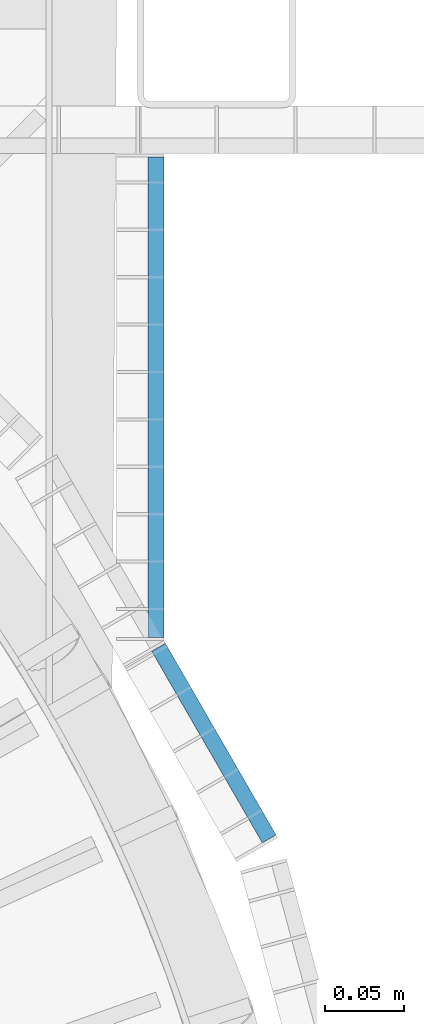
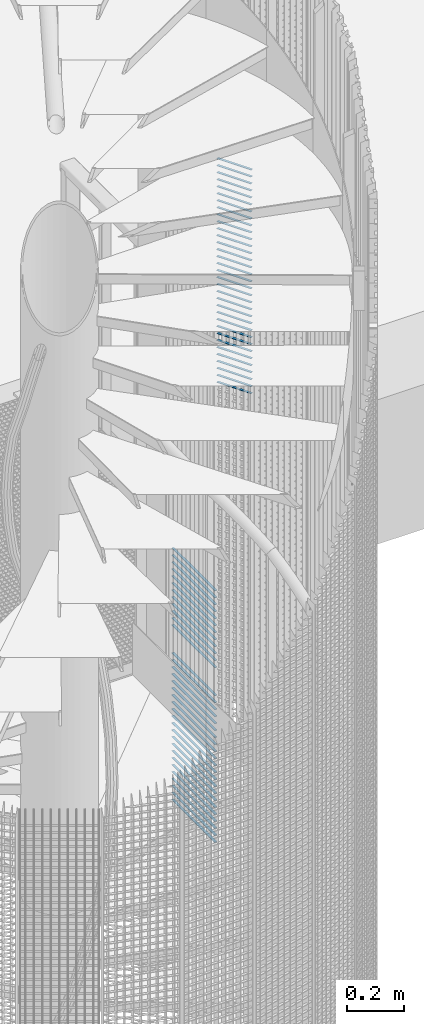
# One storey, part 292 of 1183: 67 beams, 2 elements without a shape of their own.
"""IFC2X3 building model written with IfcOpenShell, lengths in millimetres."""

from ifc_helpers import new_model, si_unit, frame, origin_with_axes, origin_2d_with_axis, place, context, subcontext, project, spatial, rectangle, extrude, material, type_object, element, aggregate, save


model = new_model("IFC2X3")

# Units and contexts
model_context = context("Model", 3, precision=1e-05, world=origin_with_axes())
body_context = subcontext(model_context, "Body", "Model", "MODEL_VIEW")
ifc_project = project(units=[si_unit("LENGTHUNIT", "METRE", prefix="MILLI"), si_unit("AREAUNIT", "SQUARE_METRE"), si_unit("VOLUMEUNIT", "CUBIC_METRE"), si_unit("MASSUNIT", "GRAM", prefix="KILO"), si_unit("TIMEUNIT", "SECOND"), si_unit("PLANEANGLEUNIT", "RADIAN"), si_unit("SOLIDANGLEUNIT", "STERADIAN"), si_unit("THERMODYNAMICTEMPERATUREUNIT", "DEGREE_CELSIUS"), si_unit("LUMINOUSINTENSITYUNIT", "LUMEN")], contexts=[model_context])

# Site, building, storey
site_placement = place(None, origin_with_axes())
site = spatial("IfcSite", under=ifc_project, at=site_placement, Name="Undefined", CompositionType="ELEMENT")
building_placement = place(site_placement, origin_with_axes())
building = spatial("IfcBuilding", under=site, at=building_placement, Name="Undefined", CompositionType="ELEMENT")
storey_placement = place(building_placement, origin_with_axes())
storey = spatial("IfcBuildingStorey", under=building, at=storey_placement, Name="Undefined", CompositionType="ELEMENT", Elevation=0.0)

# Assembly, beams
assembly_1_placement = place(storey_placement, origin_with_axes())
assembly_1 = element("IfcElementAssembly", 1, at=assembly_1_placement, inside=storey, Name="BORDURE", AssemblyPlace="NOTDEFINED", PredefinedType="NOTDEFINED")
ifc_material = material(Name="STEEL/S235JR")
beam_type = type_object("IfcBeamType", Name="PL2*10", PredefinedType="NOTDEFINED")
beam_1_placement = place(assembly_1_placement, frame((961.586915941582, 564.782669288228, 6660.0), z_axis=(1.0, 0.0, 0.0), x_axis=(0.0, 1.0, 0.0)))
beam_1 = element("IfcBeam", 2, at=beam_1_placement, type_object=beam_type, material=ifc_material, Name="ENTRETOISE", context=body_context, shape_type="SweptSolid", body=[
    extrude(rectangle(XDim=2.0, YDim=10.0, at=origin_2d_with_axis()), frame((303.999999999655, 0.0, 0.0), z_axis=(-1.0, 0.0, 0.0), x_axis=(0.0, -1.0, 0.0)), (0.0, 0.0, 1.0), 304.0),
])
beam_2_placement = place(assembly_1_placement, frame((961.586915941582, 564.782669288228, 6630.0), z_axis=(1.0, 0.0, 0.0), x_axis=(0.0, 1.0, 0.0)))
beam_2 = element("IfcBeam", 3, at=beam_2_placement, type_object=beam_type, material=ifc_material, Name="ENTRETOISE", context=body_context, shape_type="SweptSolid", body=[
    extrude(rectangle(XDim=2.0, YDim=10.0, at=origin_2d_with_axis()), frame((303.999999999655, 0.0, 0.0), z_axis=(-1.0, 0.0, 0.0), x_axis=(0.0, -1.0, 0.0)), (0.0, 0.0, 1.0), 304.0),
])
beam_3_placement = place(assembly_1_placement, frame((961.586915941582, 564.782669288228, 6780.0), z_axis=(1.0, 0.0, 0.0), x_axis=(0.0, 1.0, 0.0)))
beam_3 = element("IfcBeam", 4, at=beam_3_placement, type_object=beam_type, material=ifc_material, Name="ENTRETOISE", context=body_context, shape_type="SweptSolid", body=[
    extrude(rectangle(XDim=2.0, YDim=10.0, at=origin_2d_with_axis()), frame((303.999999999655, 0.0, 0.0), z_axis=(-1.0, 0.0, 0.0), x_axis=(0.0, -1.0, 0.0)), (0.0, 0.0, 1.0), 304.0),
])
beam_4_placement = place(assembly_1_placement, frame((961.586915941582, 564.782669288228, 6600.0), z_axis=(1.0, 0.0, 0.0), x_axis=(0.0, 1.0, 0.0)))
beam_4 = element("IfcBeam", 5, at=beam_4_placement, type_object=beam_type, material=ifc_material, Name="ENTRETOISE", context=body_context, shape_type="SweptSolid", body=[
    extrude(rectangle(XDim=2.0, YDim=10.0, at=origin_2d_with_axis()), frame((303.999999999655, 0.0, 0.0), z_axis=(-1.0, 0.0, 0.0), x_axis=(0.0, -1.0, 0.0)), (0.0, 0.0, 1.0), 304.0),
])
beam_5_placement = place(assembly_1_placement, frame((961.586915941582, 564.782669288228, 6810.0), z_axis=(1.0, 0.0, 0.0), x_axis=(0.0, 1.0, 0.0)))
beam_5 = element("IfcBeam", 6, at=beam_5_placement, type_object=beam_type, material=ifc_material, Name="ENTRETOISE", context=body_context, shape_type="SweptSolid", body=[
    extrude(rectangle(XDim=2.0, YDim=10.0, at=origin_2d_with_axis()), frame((303.999999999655, 0.0, 0.0), z_axis=(-1.0, 0.0, 0.0), x_axis=(0.0, -1.0, 0.0)), (0.0, 0.0, 1.0), 304.0),
])
beam_6_placement = place(assembly_1_placement, frame((961.586915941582, 564.782669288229, 6570.0), z_axis=(1.0, 0.0, 0.0), x_axis=(0.0, 1.0, 0.0)))
beam_6 = element("IfcBeam", 7, at=beam_6_placement, type_object=beam_type, material=ifc_material, Name="ENTRETOISE", context=body_context, shape_type="SweptSolid", body=[
    extrude(rectangle(XDim=2.0, YDim=10.0, at=origin_2d_with_axis()), frame((303.999999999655, 0.0, 0.0), z_axis=(-1.0, 0.0, 0.0), x_axis=(0.0, -1.0, 0.0)), (0.0, 0.0, 1.0), 304.0),
])
beam_7_placement = place(assembly_1_placement, frame((961.586915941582, 564.782669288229, 6540.0), z_axis=(1.0, 0.0, 0.0), x_axis=(0.0, 1.0, 0.0)))
beam_7 = element("IfcBeam", 8, at=beam_7_placement, type_object=beam_type, material=ifc_material, Name="ENTRETOISE", context=body_context, shape_type="SweptSolid", body=[
    extrude(rectangle(XDim=2.0, YDim=10.0, at=origin_2d_with_axis()), frame((303.999999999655, 0.0, 0.0), z_axis=(-1.0, 0.0, 0.0), x_axis=(0.0, -1.0, 0.0)), (0.0, 0.0, 1.0), 304.0),
])
beam_8_placement = place(assembly_1_placement, frame((961.586915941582, 564.782669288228, 6840.0), z_axis=(1.0, 0.0, 0.0), x_axis=(0.0, 1.0, 0.0)))
beam_8 = element("IfcBeam", 9, at=beam_8_placement, type_object=beam_type, material=ifc_material, Name="ENTRETOISE", context=body_context, shape_type="SweptSolid", body=[
    extrude(rectangle(XDim=2.0, YDim=10.0, at=origin_2d_with_axis()), frame((303.999999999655, 0.0, 0.0), z_axis=(-1.0, 0.0, 0.0), x_axis=(0.0, -1.0, 0.0)), (0.0, 0.0, 1.0), 304.0),
])
beam_9_placement = place(assembly_1_placement, frame((961.586915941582, 564.782669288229, 6510.0), z_axis=(1.0, 0.0, 0.0), x_axis=(0.0, 1.0, 0.0)))
beam_9 = element("IfcBeam", 10, at=beam_9_placement, type_object=beam_type, material=ifc_material, Name="ENTRETOISE", context=body_context, shape_type="SweptSolid", body=[
    extrude(rectangle(XDim=2.0, YDim=10.0, at=origin_2d_with_axis()), frame((303.999999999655, 0.0, 0.0), z_axis=(-1.0, 0.0, 0.0), x_axis=(0.0, -1.0, 0.0)), (0.0, 0.0, 1.0), 304.0),
])
beam_10_placement = place(assembly_1_placement, frame((961.586915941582, 564.782669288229, 6480.0), z_axis=(1.0, 0.0, 0.0), x_axis=(0.0, 1.0, 0.0)))
beam_10 = element("IfcBeam", 11, at=beam_10_placement, type_object=beam_type, material=ifc_material, Name="ENTRETOISE", context=body_context, shape_type="SweptSolid", body=[
    extrude(rectangle(XDim=2.0, YDim=10.0, at=origin_2d_with_axis()), frame((303.999999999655, 0.0, 0.0), z_axis=(-1.0, 0.0, 0.0), x_axis=(0.0, -1.0, 0.0)), (0.0, 0.0, 1.0), 304.0),
])
beam_11_placement = place(assembly_1_placement, frame((961.586915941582, 564.782669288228, 6870.0), z_axis=(1.0, 0.0, 0.0), x_axis=(0.0, 1.0, 0.0)))
beam_11 = element("IfcBeam", 12, at=beam_11_placement, type_object=beam_type, material=ifc_material, Name="ENTRETOISE", context=body_context, shape_type="SweptSolid", body=[
    extrude(rectangle(XDim=2.0, YDim=10.0, at=origin_2d_with_axis()), frame((303.999999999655, 0.0, 0.0), z_axis=(-1.0, 0.0, 0.0), x_axis=(0.0, -1.0, 0.0)), (0.0, 0.0, 1.0), 304.0),
])
beam_12_placement = place(assembly_1_placement, frame((961.586915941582, 564.782669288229, 6450.0), z_axis=(1.0, 0.0, 0.0), x_axis=(0.0, 1.0, 0.0)))
beam_12 = element("IfcBeam", 13, at=beam_12_placement, type_object=beam_type, material=ifc_material, Name="ENTRETOISE", context=body_context, shape_type="SweptSolid", body=[
    extrude(rectangle(XDim=2.0, YDim=10.0, at=origin_2d_with_axis()), frame((303.999999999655, 0.0, 0.0), z_axis=(-1.0, 0.0, 0.0), x_axis=(0.0, -1.0, 0.0)), (0.0, 0.0, 1.0), 304.0),
])
beam_13_placement = place(assembly_1_placement, frame((961.586915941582, 564.782669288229, 6420.0), z_axis=(1.0, 0.0, 0.0), x_axis=(0.0, 1.0, 0.0)))
beam_13 = element("IfcBeam", 14, at=beam_13_placement, type_object=beam_type, material=ifc_material, Name="ENTRETOISE", context=body_context, shape_type="SweptSolid", body=[
    extrude(rectangle(XDim=2.0, YDim=10.0, at=origin_2d_with_axis()), frame((303.999999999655, 0.0, 0.0), z_axis=(-1.0, 0.0, 0.0), x_axis=(0.0, -1.0, 0.0)), (0.0, 0.0, 1.0), 304.0),
])
beam_14_placement = place(assembly_1_placement, frame((961.586915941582, 564.782669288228, 6900.0), z_axis=(1.0, 0.0, 0.0), x_axis=(0.0, 1.0, 0.0)))
beam_14 = element("IfcBeam", 15, at=beam_14_placement, type_object=beam_type, material=ifc_material, Name="ENTRETOISE", context=body_context, shape_type="SweptSolid", body=[
    extrude(rectangle(XDim=2.0, YDim=10.0, at=origin_2d_with_axis()), frame((303.999999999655, 0.0, 0.0), z_axis=(-1.0, 0.0, 0.0), x_axis=(0.0, -1.0, 0.0)), (0.0, 0.0, 1.0), 304.0),
])
beam_15_placement = place(assembly_1_placement, frame((961.586915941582, 564.782669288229, 6390.0), z_axis=(1.0, 0.0, 0.0), x_axis=(0.0, 1.0, 0.0)))
beam_15 = element("IfcBeam", 16, at=beam_15_placement, type_object=beam_type, material=ifc_material, Name="ENTRETOISE", context=body_context, shape_type="SweptSolid", body=[
    extrude(rectangle(XDim=2.0, YDim=10.0, at=origin_2d_with_axis()), frame((303.999999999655, 0.0, 0.0), z_axis=(-1.0, 0.0, 0.0), x_axis=(0.0, -1.0, 0.0)), (0.0, 0.0, 1.0), 304.0),
])
beam_16_placement = place(assembly_1_placement, frame((961.586915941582, 564.782669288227, 6930.0), z_axis=(1.0, 0.0, 0.0), x_axis=(0.0, 1.0, 0.0)))
beam_16 = element("IfcBeam", 17, at=beam_16_placement, type_object=beam_type, material=ifc_material, Name="ENTRETOISE", context=body_context, shape_type="SweptSolid", body=[
    extrude(rectangle(XDim=2.0, YDim=10.0, at=origin_2d_with_axis()), frame((303.999999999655, 0.0, 0.0), z_axis=(-1.0, 0.0, 0.0), x_axis=(0.0, -1.0, 0.0)), (0.0, 0.0, 1.0), 304.0),
])
beam_17_placement = place(assembly_1_placement, frame((961.586915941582, 564.782669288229, 6360.0), z_axis=(1.0, 0.0, 0.0), x_axis=(0.0, 1.0, 0.0)))
beam_17 = element("IfcBeam", 18, at=beam_17_placement, type_object=beam_type, material=ifc_material, Name="ENTRETOISE", context=body_context, shape_type="SweptSolid", body=[
    extrude(rectangle(XDim=2.0, YDim=10.0, at=origin_2d_with_axis()), frame((303.999999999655, 0.0, 0.0), z_axis=(-1.0, 0.0, 0.0), x_axis=(0.0, -1.0, 0.0)), (0.0, 0.0, 1.0), 304.0),
])
beam_18_placement = place(assembly_1_placement, frame((961.586915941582, 564.782669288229, 6330.0), z_axis=(1.0, 0.0, 0.0), x_axis=(0.0, 1.0, 0.0)))
beam_18 = element("IfcBeam", 19, at=beam_18_placement, type_object=beam_type, material=ifc_material, Name="ENTRETOISE", context=body_context, shape_type="SweptSolid", body=[
    extrude(rectangle(XDim=2.0, YDim=10.0, at=origin_2d_with_axis()), frame((303.999999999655, 0.0, 0.0), z_axis=(-1.0, 0.0, 0.0), x_axis=(0.0, -1.0, 0.0)), (0.0, 0.0, 1.0), 304.0),
])
beam_19_placement = place(assembly_1_placement, frame((961.586915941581, 564.782669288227, 6960.0), z_axis=(1.0, 0.0, 0.0), x_axis=(0.0, 1.0, 0.0)))
beam_19 = element("IfcBeam", 20, at=beam_19_placement, type_object=beam_type, material=ifc_material, Name="ENTRETOISE", context=body_context, shape_type="SweptSolid", body=[
    extrude(rectangle(XDim=2.0, YDim=10.0, at=origin_2d_with_axis()), frame((303.999999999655, 0.0, 0.0), z_axis=(-1.0, 0.0, 0.0), x_axis=(0.0, -1.0, 0.0)), (0.0, 0.0, 1.0), 304.0),
])
beam_20_placement = place(assembly_1_placement, frame((961.586915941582, 564.782669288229, 6300.0), z_axis=(1.0, 0.0, 0.0), x_axis=(0.0, 1.0, 0.0)))
beam_20 = element("IfcBeam", 21, at=beam_20_placement, type_object=beam_type, material=ifc_material, Name="ENTRETOISE", context=body_context, shape_type="SweptSolid", body=[
    extrude(rectangle(XDim=2.0, YDim=10.0, at=origin_2d_with_axis()), frame((303.999999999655, 0.0, 0.0), z_axis=(-1.0, 0.0, 0.0), x_axis=(0.0, -1.0, 0.0)), (0.0, 0.0, 1.0), 304.0),
])
beam_21_placement = place(assembly_1_placement, frame((961.586915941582, 564.78266928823, 6270.0), z_axis=(1.0, 0.0, 0.0), x_axis=(0.0, 1.0, 0.0)))
beam_21 = element("IfcBeam", 22, at=beam_21_placement, type_object=beam_type, material=ifc_material, Name="ENTRETOISE", context=body_context, shape_type="SweptSolid", body=[
    extrude(rectangle(XDim=2.0, YDim=10.0, at=origin_2d_with_axis()), frame((303.999999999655, 0.0, 0.0), z_axis=(-1.0, 0.0, 0.0), x_axis=(0.0, -1.0, 0.0)), (0.0, 0.0, 1.0), 304.0),
])
beam_22_placement = place(assembly_1_placement, frame((961.586915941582, 564.782669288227, 6990.0), z_axis=(1.0, 0.0, 0.0), x_axis=(0.0, 1.0, 0.0)))
beam_22 = element("IfcBeam", 23, at=beam_22_placement, type_object=beam_type, material=ifc_material, Name="ENTRETOISE", context=body_context, shape_type="SweptSolid", body=[
    extrude(rectangle(XDim=2.0, YDim=10.0, at=origin_2d_with_axis()), frame((303.999999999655, 0.0, 0.0), z_axis=(-1.0, 0.0, 0.0), x_axis=(0.0, -1.0, 0.0)), (0.0, 0.0, 1.0), 304.0),
])
beam_23_placement = place(assembly_1_placement, frame((961.586915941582, 564.78266928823, 6240.0), z_axis=(1.0, 0.0, 0.0), x_axis=(0.0, 1.0, 0.0)))
beam_23 = element("IfcBeam", 24, at=beam_23_placement, type_object=beam_type, material=ifc_material, Name="ENTRETOISE", context=body_context, shape_type="SweptSolid", body=[
    extrude(rectangle(XDim=2.0, YDim=10.0, at=origin_2d_with_axis()), frame((303.999999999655, 0.0, 0.0), z_axis=(-1.0, 0.0, 0.0), x_axis=(0.0, -1.0, 0.0)), (0.0, 0.0, 1.0), 304.0),
])
beam_24_placement = place(assembly_1_placement, frame((961.586915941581, 564.782669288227, 7020.0), z_axis=(1.0, 0.0, 0.0), x_axis=(0.0, 1.0, 0.0)))
beam_24 = element("IfcBeam", 25, at=beam_24_placement, type_object=beam_type, material=ifc_material, Name="ENTRETOISE", context=body_context, shape_type="SweptSolid", body=[
    extrude(rectangle(XDim=2.0, YDim=10.0, at=origin_2d_with_axis()), frame((303.999999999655, 0.0, 0.0), z_axis=(-1.0, 0.0, 0.0), x_axis=(0.0, -1.0, 0.0)), (0.0, 0.0, 1.0), 304.0),
])
beam_25_placement = place(assembly_1_placement, frame((961.586915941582, 564.78266928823, 6210.0), z_axis=(1.0, 0.0, 0.0), x_axis=(0.0, 1.0, 0.0)))
beam_25 = element("IfcBeam", 26, at=beam_25_placement, type_object=beam_type, material=ifc_material, Name="ENTRETOISE", context=body_context, shape_type="SweptSolid", body=[
    extrude(rectangle(XDim=2.0, YDim=10.0, at=origin_2d_with_axis()), frame((303.999999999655, 0.0, 0.0), z_axis=(-1.0, 0.0, 0.0), x_axis=(0.0, -1.0, 0.0)), (0.0, 0.0, 1.0), 304.0),
])
beam_26_placement = place(assembly_1_placement, frame((961.586915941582, 564.78266928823, 6180.0), z_axis=(1.0, 0.0, 0.0), x_axis=(0.0, 1.0, 0.0)))
beam_26 = element("IfcBeam", 27, at=beam_26_placement, type_object=beam_type, material=ifc_material, Name="ENTRETOISE", context=body_context, shape_type="SweptSolid", body=[
    extrude(rectangle(XDim=2.0, YDim=10.0, at=origin_2d_with_axis()), frame((303.999999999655, 0.0, 0.0), z_axis=(-1.0, 0.0, 0.0), x_axis=(0.0, -1.0, 0.0)), (0.0, 0.0, 1.0), 304.0),
])
beam_27_placement = place(assembly_1_placement, frame((961.586915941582, 564.782669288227, 7050.0), z_axis=(1.0, 0.0, 0.0), x_axis=(0.0, 1.0, 0.0)))
beam_27 = element("IfcBeam", 28, at=beam_27_placement, type_object=beam_type, material=ifc_material, Name="ENTRETOISE", context=body_context, shape_type="SweptSolid", body=[
    extrude(rectangle(XDim=2.0, YDim=10.0, at=origin_2d_with_axis()), frame((303.999999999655, 0.0, 0.0), z_axis=(-1.0, 0.0, 0.0), x_axis=(0.0, -1.0, 0.0)), (0.0, 0.0, 1.0), 304.0),
])
beam_28_placement = place(assembly_1_placement, frame((961.586915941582, 564.78266928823, 6150.0), z_axis=(1.0, 0.0, 0.0), x_axis=(0.0, 1.0, 0.0)))
beam_28 = element("IfcBeam", 29, at=beam_28_placement, type_object=beam_type, material=ifc_material, Name="ENTRETOISE", context=body_context, shape_type="SweptSolid", body=[
    extrude(rectangle(XDim=2.0, YDim=10.0, at=origin_2d_with_axis()), frame((303.999999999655, 0.0, 0.0), z_axis=(-1.0, 0.0, 0.0), x_axis=(0.0, -1.0, 0.0)), (0.0, 0.0, 1.0), 304.0),
])
beam_29_placement = place(assembly_1_placement, frame((961.586915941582, 564.78266928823, 6120.0), z_axis=(1.0, 0.0, 0.0), x_axis=(0.0, 1.0, 0.0)))
beam_29 = element("IfcBeam", 30, at=beam_29_placement, type_object=beam_type, material=ifc_material, Name="ENTRETOISE", context=body_context, shape_type="SweptSolid", body=[
    extrude(rectangle(XDim=2.0, YDim=10.0, at=origin_2d_with_axis()), frame((303.999999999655, 0.0, 0.0), z_axis=(-1.0, 0.0, 0.0), x_axis=(0.0, -1.0, 0.0)), (0.0, 0.0, 1.0), 304.0),
])
beam_30_placement = place(assembly_1_placement, frame((961.586915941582, 564.782669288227, 7080.0), z_axis=(1.0, 0.0, 0.0), x_axis=(0.0, 1.0, 0.0)))
beam_30 = element("IfcBeam", 31, at=beam_30_placement, type_object=beam_type, material=ifc_material, Name="ENTRETOISE", context=body_context, shape_type="SweptSolid", body=[
    extrude(rectangle(XDim=2.0, YDim=10.0, at=origin_2d_with_axis()), frame((303.999999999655, 0.0, 0.0), z_axis=(-1.0, 0.0, 0.0), x_axis=(0.0, -1.0, 0.0)), (0.0, 0.0, 1.0), 304.0),
])
beam_31_placement = place(assembly_1_placement, frame((961.586915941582, 564.78266928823, 6090.0), z_axis=(1.0, 0.0, 0.0), x_axis=(0.0, 1.0, 0.0)))
beam_31 = element("IfcBeam", 32, at=beam_31_placement, type_object=beam_type, material=ifc_material, Name="ENTRETOISE", context=body_context, shape_type="SweptSolid", body=[
    extrude(rectangle(XDim=2.0, YDim=10.0, at=origin_2d_with_axis()), frame((303.999999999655, 0.0, 0.0), z_axis=(-1.0, 0.0, 0.0), x_axis=(0.0, -1.0, 0.0)), (0.0, 0.0, 1.0), 304.0),
])
beam_32_placement = place(assembly_1_placement, frame((961.586915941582, 564.78266928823, 6060.0), z_axis=(1.0, 0.0, 0.0), x_axis=(0.0, 1.0, 0.0)))
beam_32 = element("IfcBeam", 33, at=beam_32_placement, type_object=beam_type, material=ifc_material, Name="ENTRETOISE", context=body_context, shape_type="SweptSolid", body=[
    extrude(rectangle(XDim=2.0, YDim=10.0, at=origin_2d_with_axis()), frame((303.999999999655, 0.0, 0.0), z_axis=(-1.0, 0.0, 0.0), x_axis=(0.0, -1.0, 0.0)), (0.0, 0.0, 1.0), 304.0),
])
beam_33_placement = place(assembly_1_placement, frame((961.586915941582, 564.782669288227, 7110.0), z_axis=(1.0, 0.0, 0.0), x_axis=(0.0, 1.0, 0.0)))
beam_33 = element("IfcBeam", 34, at=beam_33_placement, type_object=beam_type, material=ifc_material, Name="ENTRETOISE", context=body_context, shape_type="SweptSolid", body=[
    extrude(rectangle(XDim=2.0, YDim=10.0, at=origin_2d_with_axis()), frame((303.999999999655, 0.0, 0.0), z_axis=(-1.0, 0.0, 0.0), x_axis=(0.0, -1.0, 0.0)), (0.0, 0.0, 1.0), 304.0),
])
beam_34_placement = place(assembly_1_placement, frame((961.586915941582, 564.782669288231, 6030.0), z_axis=(1.0, 0.0, 0.0), x_axis=(0.0, 1.0, 0.0)))
beam_34 = element("IfcBeam", 35, at=beam_34_placement, type_object=beam_type, material=ifc_material, Name="ENTRETOISE", context=body_context, shape_type="SweptSolid", body=[
    extrude(rectangle(XDim=2.0, YDim=10.0, at=origin_2d_with_axis()), frame((303.999999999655, 0.0, 0.0), z_axis=(-1.0, 0.0, 0.0), x_axis=(0.0, -1.0, 0.0)), (0.0, 0.0, 1.0), 304.0),
])
aggregate(assembly_1, [beam_1, beam_2, beam_3, beam_4, beam_5, beam_6, beam_7, beam_8, beam_9, beam_10, beam_11, beam_12, beam_13, beam_14, beam_15, beam_16, beam_17, beam_18, beam_19, beam_20, beam_21, beam_22, beam_23, beam_24, beam_25, beam_26, beam_27, beam_28, beam_29, beam_30, beam_31, beam_32, beam_33, beam_34])

assembly_2_placement = place(storey_placement, origin_with_axes())
assembly_2 = element("IfcElementAssembly", 36, at=assembly_2_placement, inside=storey, Name="BORDURE", AssemblyPlace="NOTDEFINED", PredefinedType="NOTDEFINED")
beam_35_placement = place(assembly_2_placement, frame((1033.29994283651, 437.231999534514, 8970.0), z_axis=(0.866030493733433, 0.499991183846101, 0.0), x_axis=(-0.499991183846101, 0.866030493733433, 0.0)))
beam_35 = element("IfcBeam", 37, at=beam_35_placement, type_object=beam_type, material=ifc_material, Name="ENTRETOISE", context=body_context, shape_type="SweptSolid", body=[
    extrude(rectangle(XDim=2.0, YDim=10.0, at=origin_2d_with_axis()), frame((140.102470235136, 0.0, 0.0), z_axis=(-1.0, 0.0, 0.0), x_axis=(0.0, -1.0, 0.0)), (0.0, 0.0, 1.0), 140.1),
])
beam_36_placement = place(assembly_2_placement, frame((1033.29994283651, 437.231999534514, 8940.0), z_axis=(0.866030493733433, 0.499991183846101, 0.0), x_axis=(-0.499991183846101, 0.866030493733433, 0.0)))
beam_36 = element("IfcBeam", 38, at=beam_36_placement, type_object=beam_type, material=ifc_material, Name="ENTRETOISE", context=body_context, shape_type="SweptSolid", body=[
    extrude(rectangle(XDim=2.0, YDim=10.0, at=origin_2d_with_axis()), frame((140.102470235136, 0.0, 0.0), z_axis=(-1.0, 0.0, 0.0), x_axis=(0.0, -1.0, 0.0)), (0.0, 0.0, 1.0), 140.1),
])
beam_37_placement = place(assembly_2_placement, frame((1033.29994283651, 437.231999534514, 8910.0), z_axis=(0.866030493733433, 0.499991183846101, 0.0), x_axis=(-0.499991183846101, 0.866030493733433, 0.0)))
beam_37 = element("IfcBeam", 39, at=beam_37_placement, type_object=beam_type, material=ifc_material, Name="ENTRETOISE", context=body_context, shape_type="SweptSolid", body=[
    extrude(rectangle(XDim=2.0, YDim=10.0, at=origin_2d_with_axis()), frame((140.102470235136, 0.0, 0.0), z_axis=(-1.0, 0.0, 0.0), x_axis=(0.0, -1.0, 0.0)), (0.0, 0.0, 1.0), 140.1),
])
beam_38_placement = place(assembly_2_placement, frame((1033.29994283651, 437.231999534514, 8880.0), z_axis=(0.866030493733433, 0.499991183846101, 0.0), x_axis=(-0.499991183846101, 0.866030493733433, 0.0)))
beam_38 = element("IfcBeam", 40, at=beam_38_placement, type_object=beam_type, material=ifc_material, Name="ENTRETOISE", context=body_context, shape_type="SweptSolid", body=[
    extrude(rectangle(XDim=2.0, YDim=10.0, at=origin_2d_with_axis()), frame((140.102470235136, 0.0, 0.0), z_axis=(-1.0, 0.0, 0.0), x_axis=(0.0, -1.0, 0.0)), (0.0, 0.0, 1.0), 140.1),
])
beam_39_placement = place(assembly_2_placement, frame((1033.29994283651, 437.231999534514, 8850.0), z_axis=(0.866030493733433, 0.499991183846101, 0.0), x_axis=(-0.499991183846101, 0.866030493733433, 0.0)))
beam_39 = element("IfcBeam", 41, at=beam_39_placement, type_object=beam_type, material=ifc_material, Name="ENTRETOISE", context=body_context, shape_type="SweptSolid", body=[
    extrude(rectangle(XDim=2.0, YDim=10.0, at=origin_2d_with_axis()), frame((140.102470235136, 0.0, 0.0), z_axis=(-1.0, 0.0, 0.0), x_axis=(0.0, -1.0, 0.0)), (0.0, 0.0, 1.0), 140.1),
])
beam_40_placement = place(assembly_2_placement, frame((1033.29994283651, 437.231999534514, 8820.0), z_axis=(0.866030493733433, 0.499991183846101, 0.0), x_axis=(-0.499991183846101, 0.866030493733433, 0.0)))
beam_40 = element("IfcBeam", 42, at=beam_40_placement, type_object=beam_type, material=ifc_material, Name="ENTRETOISE", context=body_context, shape_type="SweptSolid", body=[
    extrude(rectangle(XDim=2.0, YDim=10.0, at=origin_2d_with_axis()), frame((140.102470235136, 0.0, 0.0), z_axis=(-1.0, 0.0, 0.0), x_axis=(0.0, -1.0, 0.0)), (0.0, 0.0, 1.0), 140.1),
])
beam_41_placement = place(assembly_2_placement, frame((1033.29994283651, 437.231999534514, 8790.0), z_axis=(0.866030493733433, 0.499991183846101, 0.0), x_axis=(-0.499991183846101, 0.866030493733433, 0.0)))
beam_41 = element("IfcBeam", 43, at=beam_41_placement, type_object=beam_type, material=ifc_material, Name="ENTRETOISE", context=body_context, shape_type="SweptSolid", body=[
    extrude(rectangle(XDim=2.0, YDim=10.0, at=origin_2d_with_axis()), frame((140.102470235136, 0.0, 0.0), z_axis=(-1.0, 0.0, 0.0), x_axis=(0.0, -1.0, 0.0)), (0.0, 0.0, 1.0), 140.1),
])
beam_42_placement = place(assembly_2_placement, frame((1033.29994283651, 437.231999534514, 8760.0), z_axis=(0.866030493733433, 0.499991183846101, 0.0), x_axis=(-0.499991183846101, 0.866030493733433, 0.0)))
beam_42 = element("IfcBeam", 44, at=beam_42_placement, type_object=beam_type, material=ifc_material, Name="ENTRETOISE", context=body_context, shape_type="SweptSolid", body=[
    extrude(rectangle(XDim=2.0, YDim=10.0, at=origin_2d_with_axis()), frame((140.102470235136, 0.0, 0.0), z_axis=(-1.0, 0.0, 0.0), x_axis=(0.0, -1.0, 0.0)), (0.0, 0.0, 1.0), 140.1),
])
beam_43_placement = place(assembly_2_placement, frame((1033.29994283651, 437.231999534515, 8730.0), z_axis=(0.866030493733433, 0.499991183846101, 0.0), x_axis=(-0.499991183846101, 0.866030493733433, 0.0)))
beam_43 = element("IfcBeam", 45, at=beam_43_placement, type_object=beam_type, material=ifc_material, Name="ENTRETOISE", context=body_context, shape_type="SweptSolid", body=[
    extrude(rectangle(XDim=2.0, YDim=10.0, at=origin_2d_with_axis()), frame((140.102470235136, 0.0, 0.0), z_axis=(-1.0, 0.0, 0.0), x_axis=(0.0, -1.0, 0.0)), (0.0, 0.0, 1.0), 140.1),
])
beam_44_placement = place(assembly_2_placement, frame((1033.29994283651, 437.231999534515, 8700.0), z_axis=(0.866030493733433, 0.499991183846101, 0.0), x_axis=(-0.499991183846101, 0.866030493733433, 0.0)))
beam_44 = element("IfcBeam", 46, at=beam_44_placement, type_object=beam_type, material=ifc_material, Name="ENTRETOISE", context=body_context, shape_type="SweptSolid", body=[
    extrude(rectangle(XDim=2.0, YDim=10.0, at=origin_2d_with_axis()), frame((140.102470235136, 0.0, 0.0), z_axis=(-1.0, 0.0, 0.0), x_axis=(0.0, -1.0, 0.0)), (0.0, 0.0, 1.0), 140.1),
])
beam_45_placement = place(assembly_2_placement, frame((1033.29994283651, 437.231999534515, 8670.0), z_axis=(0.866030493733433, 0.499991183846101, 0.0), x_axis=(-0.499991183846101, 0.866030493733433, 0.0)))
beam_45 = element("IfcBeam", 47, at=beam_45_placement, type_object=beam_type, material=ifc_material, Name="ENTRETOISE", context=body_context, shape_type="SweptSolid", body=[
    extrude(rectangle(XDim=2.0, YDim=10.0, at=origin_2d_with_axis()), frame((140.102470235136, 0.0, 0.0), z_axis=(-1.0, 0.0, 0.0), x_axis=(0.0, -1.0, 0.0)), (0.0, 0.0, 1.0), 140.1),
])
beam_46_placement = place(assembly_2_placement, frame((1033.29994283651, 437.231999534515, 8640.0), z_axis=(0.866030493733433, 0.499991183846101, 0.0), x_axis=(-0.499991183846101, 0.866030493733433, 0.0)))
beam_46 = element("IfcBeam", 48, at=beam_46_placement, type_object=beam_type, material=ifc_material, Name="ENTRETOISE", context=body_context, shape_type="SweptSolid", body=[
    extrude(rectangle(XDim=2.0, YDim=10.0, at=origin_2d_with_axis()), frame((140.102470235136, 0.0, 0.0), z_axis=(-1.0, 0.0, 0.0), x_axis=(0.0, -1.0, 0.0)), (0.0, 0.0, 1.0), 140.1),
])
beam_47_placement = place(assembly_2_placement, frame((1033.29994283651, 437.231999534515, 8610.0), z_axis=(0.866030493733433, 0.499991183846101, 0.0), x_axis=(-0.499991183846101, 0.866030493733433, 0.0)))
beam_47 = element("IfcBeam", 49, at=beam_47_placement, type_object=beam_type, material=ifc_material, Name="ENTRETOISE", context=body_context, shape_type="SweptSolid", body=[
    extrude(rectangle(XDim=2.0, YDim=10.0, at=origin_2d_with_axis()), frame((140.102470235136, 0.0, 0.0), z_axis=(-1.0, 0.0, 0.0), x_axis=(0.0, -1.0, 0.0)), (0.0, 0.0, 1.0), 140.1),
])
beam_48_placement = place(assembly_2_placement, frame((1033.29994283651, 437.231999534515, 8580.0), z_axis=(0.866030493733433, 0.499991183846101, 0.0), x_axis=(-0.499991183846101, 0.866030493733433, 0.0)))
beam_48 = element("IfcBeam", 50, at=beam_48_placement, type_object=beam_type, material=ifc_material, Name="ENTRETOISE", context=body_context, shape_type="SweptSolid", body=[
    extrude(rectangle(XDim=2.0, YDim=10.0, at=origin_2d_with_axis()), frame((140.102470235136, 0.0, 0.0), z_axis=(-1.0, 0.0, 0.0), x_axis=(0.0, -1.0, 0.0)), (0.0, 0.0, 1.0), 140.1),
])
beam_49_placement = place(assembly_2_placement, frame((1033.29994283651, 437.231999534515, 8550.0), z_axis=(0.866030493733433, 0.499991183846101, 0.0), x_axis=(-0.499991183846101, 0.866030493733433, 0.0)))
beam_49 = element("IfcBeam", 51, at=beam_49_placement, type_object=beam_type, material=ifc_material, Name="ENTRETOISE", context=body_context, shape_type="SweptSolid", body=[
    extrude(rectangle(XDim=2.0, YDim=10.0, at=origin_2d_with_axis()), frame((140.102470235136, 0.0, 0.0), z_axis=(-1.0, 0.0, 0.0), x_axis=(0.0, -1.0, 0.0)), (0.0, 0.0, 1.0), 140.1),
])
beam_50_placement = place(assembly_2_placement, frame((1033.29994283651, 437.231999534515, 8520.0), z_axis=(0.866030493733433, 0.499991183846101, 0.0), x_axis=(-0.499991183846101, 0.866030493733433, 0.0)))
beam_50 = element("IfcBeam", 52, at=beam_50_placement, type_object=beam_type, material=ifc_material, Name="ENTRETOISE", context=body_context, shape_type="SweptSolid", body=[
    extrude(rectangle(XDim=2.0, YDim=10.0, at=origin_2d_with_axis()), frame((140.102470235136, 0.0, 0.0), z_axis=(-1.0, 0.0, 0.0), x_axis=(0.0, -1.0, 0.0)), (0.0, 0.0, 1.0), 140.1),
])
beam_51_placement = place(assembly_2_placement, frame((1033.29994283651, 437.231999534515, 8490.0), z_axis=(0.866030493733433, 0.499991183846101, 0.0), x_axis=(-0.499991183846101, 0.866030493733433, 0.0)))
beam_51 = element("IfcBeam", 53, at=beam_51_placement, type_object=beam_type, material=ifc_material, Name="ENTRETOISE", context=body_context, shape_type="SweptSolid", body=[
    extrude(rectangle(XDim=2.0, YDim=10.0, at=origin_2d_with_axis()), frame((140.102470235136, 0.0, 0.0), z_axis=(-1.0, 0.0, 0.0), x_axis=(0.0, -1.0, 0.0)), (0.0, 0.0, 1.0), 140.1),
])
beam_52_placement = place(assembly_2_placement, frame((1033.29994283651, 437.231999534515, 8460.0), z_axis=(0.866030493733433, 0.499991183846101, 0.0), x_axis=(-0.499991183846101, 0.866030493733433, 0.0)))
beam_52 = element("IfcBeam", 54, at=beam_52_placement, type_object=beam_type, material=ifc_material, Name="ENTRETOISE", context=body_context, shape_type="SweptSolid", body=[
    extrude(rectangle(XDim=2.0, YDim=10.0, at=origin_2d_with_axis()), frame((140.102470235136, 0.0, 0.0), z_axis=(-1.0, 0.0, 0.0), x_axis=(0.0, -1.0, 0.0)), (0.0, 0.0, 1.0), 140.1),
])
beam_53_placement = place(assembly_2_placement, frame((1033.29994283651, 437.231999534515, 8430.0), z_axis=(0.866030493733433, 0.499991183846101, 0.0), x_axis=(-0.499991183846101, 0.866030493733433, 0.0)))
beam_53 = element("IfcBeam", 55, at=beam_53_placement, type_object=beam_type, material=ifc_material, Name="ENTRETOISE", context=body_context, shape_type="SweptSolid", body=[
    extrude(rectangle(XDim=2.0, YDim=10.0, at=origin_2d_with_axis()), frame((140.102470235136, 0.0, 0.0), z_axis=(-1.0, 0.0, 0.0), x_axis=(0.0, -1.0, 0.0)), (0.0, 0.0, 1.0), 140.1),
])
beam_54_placement = place(assembly_2_placement, frame((1033.29994283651, 437.231999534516, 8400.0), z_axis=(0.866030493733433, 0.499991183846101, 0.0), x_axis=(-0.499991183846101, 0.866030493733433, 0.0)))
beam_54 = element("IfcBeam", 56, at=beam_54_placement, type_object=beam_type, material=ifc_material, Name="ENTRETOISE", context=body_context, shape_type="SweptSolid", body=[
    extrude(rectangle(XDim=2.0, YDim=10.0, at=origin_2d_with_axis()), frame((140.102470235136, 0.0, 0.0), z_axis=(-1.0, 0.0, 0.0), x_axis=(0.0, -1.0, 0.0)), (0.0, 0.0, 1.0), 140.1),
])
beam_55_placement = place(assembly_2_placement, frame((1033.29994283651, 437.231999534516, 8370.0), z_axis=(0.866030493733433, 0.499991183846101, 0.0), x_axis=(-0.499991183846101, 0.866030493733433, 0.0)))
beam_55 = element("IfcBeam", 57, at=beam_55_placement, type_object=beam_type, material=ifc_material, Name="ENTRETOISE", context=body_context, shape_type="SweptSolid", body=[
    extrude(rectangle(XDim=2.0, YDim=10.0, at=origin_2d_with_axis()), frame((140.102470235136, 0.0, 0.0), z_axis=(-1.0, 0.0, 0.0), x_axis=(0.0, -1.0, 0.0)), (0.0, 0.0, 1.0), 140.1),
])
beam_56_placement = place(assembly_2_placement, frame((1033.29994283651, 437.231999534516, 8340.0), z_axis=(0.866030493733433, 0.499991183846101, 0.0), x_axis=(-0.499991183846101, 0.866030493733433, 0.0)))
beam_56 = element("IfcBeam", 58, at=beam_56_placement, type_object=beam_type, material=ifc_material, Name="ENTRETOISE", context=body_context, shape_type="SweptSolid", body=[
    extrude(rectangle(XDim=2.0, YDim=10.0, at=origin_2d_with_axis()), frame((140.102470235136, 0.0, 0.0), z_axis=(-1.0, 0.0, 0.0), x_axis=(0.0, -1.0, 0.0)), (0.0, 0.0, 1.0), 140.1),
])
beam_57_placement = place(assembly_2_placement, frame((1033.29994283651, 437.231999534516, 8310.0), z_axis=(0.866030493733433, 0.499991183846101, 0.0), x_axis=(-0.499991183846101, 0.866030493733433, 0.0)))
beam_57 = element("IfcBeam", 59, at=beam_57_placement, type_object=beam_type, material=ifc_material, Name="ENTRETOISE", context=body_context, shape_type="SweptSolid", body=[
    extrude(rectangle(XDim=2.0, YDim=10.0, at=origin_2d_with_axis()), frame((140.102470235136, 0.0, 0.0), z_axis=(-1.0, 0.0, 0.0), x_axis=(0.0, -1.0, 0.0)), (0.0, 0.0, 1.0), 140.1),
])
beam_58_placement = place(assembly_2_placement, frame((1033.29994283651, 437.231999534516, 8280.0), z_axis=(0.866030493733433, 0.499991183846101, 0.0), x_axis=(-0.499991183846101, 0.866030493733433, 0.0)))
beam_58 = element("IfcBeam", 60, at=beam_58_placement, type_object=beam_type, material=ifc_material, Name="ENTRETOISE", context=body_context, shape_type="SweptSolid", body=[
    extrude(rectangle(XDim=2.0, YDim=10.0, at=origin_2d_with_axis()), frame((140.102470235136, 0.0, 0.0), z_axis=(-1.0, 0.0, 0.0), x_axis=(0.0, -1.0, 0.0)), (0.0, 0.0, 1.0), 140.1),
])
beam_59_placement = place(assembly_2_placement, frame((1033.29994283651, 437.231999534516, 8250.0), z_axis=(0.866030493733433, 0.499991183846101, 0.0), x_axis=(-0.499991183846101, 0.866030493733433, 0.0)))
beam_59 = element("IfcBeam", 61, at=beam_59_placement, type_object=beam_type, material=ifc_material, Name="ENTRETOISE", context=body_context, shape_type="SweptSolid", body=[
    extrude(rectangle(XDim=2.0, YDim=10.0, at=origin_2d_with_axis()), frame((140.102470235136, 0.0, 0.0), z_axis=(-1.0, 0.0, 0.0), x_axis=(0.0, -1.0, 0.0)), (0.0, 0.0, 1.0), 140.1),
])
beam_60_placement = place(assembly_2_placement, frame((1033.29994283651, 437.231999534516, 8220.0), z_axis=(0.866030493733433, 0.499991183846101, 0.0), x_axis=(-0.499991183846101, 0.866030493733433, 0.0)))
beam_60 = element("IfcBeam", 62, at=beam_60_placement, type_object=beam_type, material=ifc_material, Name="ENTRETOISE", context=body_context, shape_type="SweptSolid", body=[
    extrude(rectangle(XDim=2.0, YDim=10.0, at=origin_2d_with_axis()), frame((140.102470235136, 0.0, 0.0), z_axis=(-1.0, 0.0, 0.0), x_axis=(0.0, -1.0, 0.0)), (0.0, 0.0, 1.0), 140.1),
])
beam_61_placement = place(assembly_2_placement, frame((1033.29994283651, 437.231999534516, 8190.0), z_axis=(0.866030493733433, 0.499991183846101, 0.0), x_axis=(-0.499991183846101, 0.866030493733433, 0.0)))
beam_61 = element("IfcBeam", 63, at=beam_61_placement, type_object=beam_type, material=ifc_material, Name="ENTRETOISE", context=body_context, shape_type="SweptSolid", body=[
    extrude(rectangle(XDim=2.0, YDim=10.0, at=origin_2d_with_axis()), frame((140.102470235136, 0.0, 0.0), z_axis=(-1.0, 0.0, 0.0), x_axis=(0.0, -1.0, 0.0)), (0.0, 0.0, 1.0), 140.1),
])
beam_62_placement = place(assembly_2_placement, frame((1033.29994283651, 437.231999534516, 8160.0), z_axis=(0.866030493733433, 0.499991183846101, 0.0), x_axis=(-0.499991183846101, 0.866030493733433, 0.0)))
beam_62 = element("IfcBeam", 64, at=beam_62_placement, type_object=beam_type, material=ifc_material, Name="ENTRETOISE", context=body_context, shape_type="SweptSolid", body=[
    extrude(rectangle(XDim=2.0, YDim=10.0, at=origin_2d_with_axis()), frame((140.102470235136, 0.0, 0.0), z_axis=(-1.0, 0.0, 0.0), x_axis=(0.0, -1.0, 0.0)), (0.0, 0.0, 1.0), 140.1),
])
beam_63_placement = place(assembly_2_placement, frame((1033.29994283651, 437.231999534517, 8130.0), z_axis=(0.866030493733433, 0.499991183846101, 0.0), x_axis=(-0.499991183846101, 0.866030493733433, 0.0)))
beam_63 = element("IfcBeam", 65, at=beam_63_placement, type_object=beam_type, material=ifc_material, Name="ENTRETOISE", context=body_context, shape_type="SweptSolid", body=[
    extrude(rectangle(XDim=2.0, YDim=10.0, at=origin_2d_with_axis()), frame((140.102470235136, 0.0, 0.0), z_axis=(-1.0, 0.0, 0.0), x_axis=(0.0, -1.0, 0.0)), (0.0, 0.0, 1.0), 140.1),
])
beam_64_placement = place(assembly_2_placement, frame((1033.29994283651, 437.231999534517, 8100.0), z_axis=(0.866030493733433, 0.499991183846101, 0.0), x_axis=(-0.499991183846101, 0.866030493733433, 0.0)))
beam_64 = element("IfcBeam", 66, at=beam_64_placement, type_object=beam_type, material=ifc_material, Name="ENTRETOISE", context=body_context, shape_type="SweptSolid", body=[
    extrude(rectangle(XDim=2.0, YDim=10.0, at=origin_2d_with_axis()), frame((140.102470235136, 0.0, 0.0), z_axis=(-1.0, 0.0, 0.0), x_axis=(0.0, -1.0, 0.0)), (0.0, 0.0, 1.0), 140.1),
])
beam_65_placement = place(assembly_2_placement, frame((1033.29994283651, 437.231999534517, 8070.0), z_axis=(0.866030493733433, 0.499991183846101, 0.0), x_axis=(-0.499991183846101, 0.866030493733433, 0.0)))
beam_65 = element("IfcBeam", 67, at=beam_65_placement, type_object=beam_type, material=ifc_material, Name="ENTRETOISE", context=body_context, shape_type="SweptSolid", body=[
    extrude(rectangle(XDim=2.0, YDim=10.0, at=origin_2d_with_axis()), frame((140.102470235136, 0.0, 0.0), z_axis=(-1.0, 0.0, 0.0), x_axis=(0.0, -1.0, 0.0)), (0.0, 0.0, 1.0), 140.1),
])
beam_66_placement = place(assembly_2_placement, frame((1033.29994283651, 437.231999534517, 8040.0), z_axis=(0.866030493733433, 0.499991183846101, 0.0), x_axis=(-0.499991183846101, 0.866030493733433, 0.0)))
beam_66 = element("IfcBeam", 68, at=beam_66_placement, type_object=beam_type, material=ifc_material, Name="ENTRETOISE", context=body_context, shape_type="SweptSolid", body=[
    extrude(rectangle(XDim=2.0, YDim=10.0, at=origin_2d_with_axis()), frame((140.102470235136, 0.0, 0.0), z_axis=(-1.0, 0.0, 0.0), x_axis=(0.0, -1.0, 0.0)), (0.0, 0.0, 1.0), 140.1),
])
beam_67_placement = place(assembly_2_placement, frame((1033.29994283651, 437.231999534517, 8010.0), z_axis=(0.866030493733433, 0.499991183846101, 0.0), x_axis=(-0.499991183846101, 0.866030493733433, 0.0)))
beam_67 = element("IfcBeam", 69, at=beam_67_placement, type_object=beam_type, material=ifc_material, Name="ENTRETOISE", context=body_context, shape_type="SweptSolid", body=[
    extrude(rectangle(XDim=2.0, YDim=10.0, at=origin_2d_with_axis()), frame((140.102470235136, 0.0, 0.0), z_axis=(-1.0, 0.0, 0.0), x_axis=(0.0, -1.0, 0.0)), (0.0, 0.0, 1.0), 140.1),
])
aggregate(assembly_2, [beam_35, beam_36, beam_37, beam_38, beam_39, beam_40, beam_41, beam_42, beam_43, beam_44, beam_45, beam_46, beam_47, beam_48, beam_49, beam_50, beam_51, beam_52, beam_53, beam_54, beam_55, beam_56, beam_57, beam_58, beam_59, beam_60, beam_61, beam_62, beam_63, beam_64, beam_65, beam_66, beam_67])

save(model, "model.ifc")
